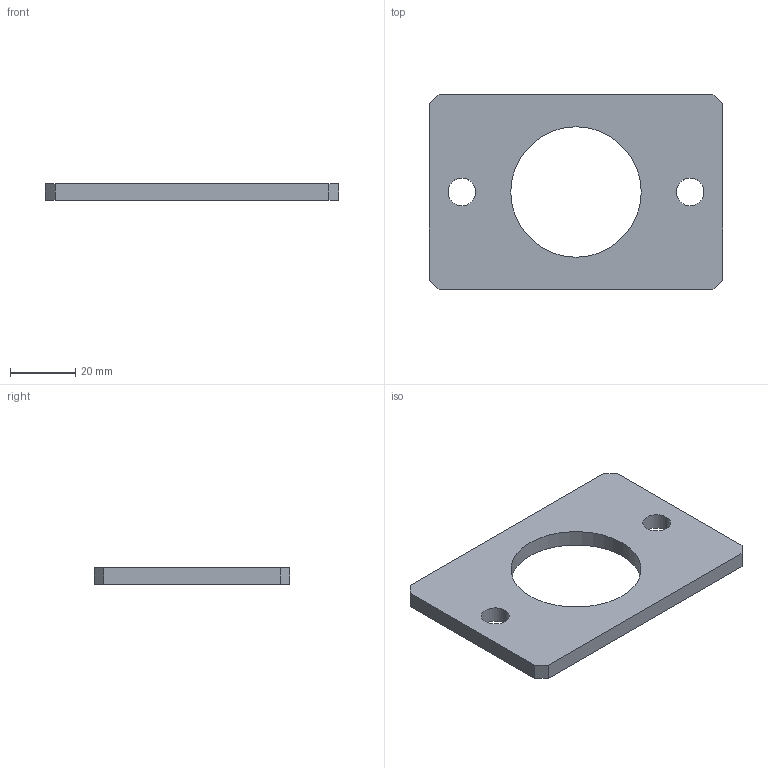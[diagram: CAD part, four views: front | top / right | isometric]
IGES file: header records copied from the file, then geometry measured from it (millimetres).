
Global section: file name: No Iges File Name specified; native system: AutoDesk Inventor R6.0; preprocessor: AutoDesk Inventor Iges Exporter R6.0; author: No Author specified; organization: No Organization specified; date: 20030408.081849; units: millimetre
Bounding box: 90 x 60 x 5 mm (x, y, z)
Volume: 20059.4 mm3; surface area: 10384 mm2
Topology: 1 solids, 1 shells, 16 faces, 42 edges, 28 vertices
Faces by surface type: plane 10, revolution 6
